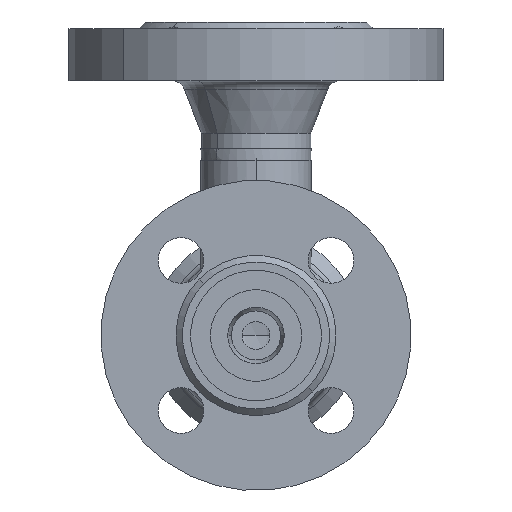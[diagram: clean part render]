
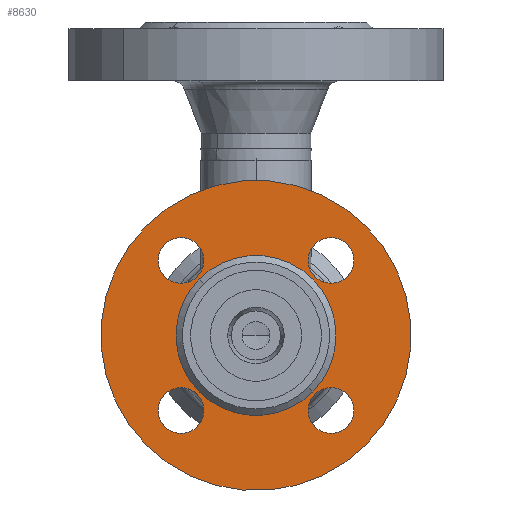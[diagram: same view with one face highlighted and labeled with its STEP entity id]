
A CAD part, front view. The second image highlights one B-rep face of the part: STEP entity #8630.
In plain terms, the highlighted planar face has unit normal (0, -1, 0).
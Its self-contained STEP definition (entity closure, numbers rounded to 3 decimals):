
#102 = VERTEX_POINT ( 'NONE', #568 ) ;
#141 = VERTEX_POINT ( 'NONE', #718 ) ;
#149 = ORIENTED_EDGE ( 'NONE', *, *, #6376, .T. ) ;
#166 = EDGE_CURVE ( 'NONE', #141, #102, #838, .T. ) ;
#222 = ORIENTED_EDGE ( 'NONE', *, *, #5310, .T. ) ;
#301 = EDGE_LOOP ( 'NONE', ( #222, #149 ) ) ;
#568 = CARTESIAN_POINT ( 'NONE',  ( -7., 2., 32.5 ) ) ;
#684 = EDGE_CURVE ( 'NONE', #7557, #7783, #2327, .T. ) ;
#718 = CARTESIAN_POINT ( 'NONE',  ( 7., 2., 32.5 ) ) ;
#838 = CIRCLE ( 'NONE', #839, 7. ) ;
#839 = AXIS2_PLACEMENT_3D ( 'NONE', #840, #841, #842 ) ;
#840 = CARTESIAN_POINT ( 'NONE',  ( 0., 2., 32.5 ) ) ;
#841 = DIRECTION ( 'NONE',  ( 0., 1., 0. ) ) ;
#842 = DIRECTION ( 'NONE',  ( -1., 0., 0. ) ) ;
#965 = CARTESIAN_POINT ( 'NONE',  ( -7., 2., -32.5 ) ) ;
#1178 = CARTESIAN_POINT ( 'NONE',  ( 7., 2., -32.5 ) ) ;
#1297 = CIRCLE ( 'NONE', #1298, 7. ) ;
#1298 = AXIS2_PLACEMENT_3D ( 'NONE', #1299, #1300, #1301 ) ;
#1299 = CARTESIAN_POINT ( 'NONE',  ( 0., 2., -32.5 ) ) ;
#1300 = DIRECTION ( 'NONE',  ( 0., 1., 0. ) ) ;
#1301 = DIRECTION ( 'NONE',  ( -1., 0., 0. ) ) ;
#2327 = CIRCLE ( 'NONE', #2328, 47.5 ) ;
#2328 = AXIS2_PLACEMENT_3D ( 'NONE', #2329, #2330, #2331 ) ;
#2329 = CARTESIAN_POINT ( 'NONE',  ( 0., 2., 0. ) ) ;
#2330 = DIRECTION ( 'NONE',  ( 0., 1., 0. ) ) ;
#2331 = DIRECTION ( 'NONE',  ( -1., 0., 0. ) ) ;
#3120 = VERTEX_POINT ( 'NONE', #6697 ) ;
#3347 = VERTEX_POINT ( 'NONE', #6997 ) ;
#3567 = EDGE_CURVE ( 'NONE', #3347, #3120, #7245, .T. ) ;
#4383 = CIRCLE ( 'NONE', #4384, 7. ) ;
#4384 = AXIS2_PLACEMENT_3D ( 'NONE', #4385, #4386, #4387 ) ;
#4385 = CARTESIAN_POINT ( 'NONE',  ( 32.5, 2., 0. ) ) ;
#4386 = DIRECTION ( 'NONE',  ( 0., 1., 0. ) ) ;
#4387 = DIRECTION ( 'NONE',  ( -1., 0., 0. ) ) ;
#5088 = VERTEX_POINT ( 'NONE', #8689 ) ;
#5310 = EDGE_CURVE ( 'NONE', #5088, #14038, #8784, .T. ) ;
#5452 = ORIENTED_EDGE ( 'NONE', *, *, #13757, .T. ) ;
#5813 = EDGE_CURVE ( 'NONE', #13446, #13673, #9169, .T. ) ;
#6189 = ORIENTED_EDGE ( 'NONE', *, *, #5813, .T. ) ;
#6376 = EDGE_CURVE ( 'NONE', #14038, #5088, #11152, .T. ) ;
#6697 = CARTESIAN_POINT ( 'NONE',  ( 25.5, 2., 0. ) ) ;
#6715 = EDGE_LOOP ( 'NONE', ( #6189, #5452 ) ) ;
#6956 = ORIENTED_EDGE ( 'NONE', *, *, #9470, .T. ) ;
#6997 = CARTESIAN_POINT ( 'NONE',  ( 39.5, 2., 0. ) ) ;
#7245 = CIRCLE ( 'NONE', #7246, 7. ) ;
#7246 = AXIS2_PLACEMENT_3D ( 'NONE', #7247, #7248, #7249 ) ;
#7247 = CARTESIAN_POINT ( 'NONE',  ( 32.5, 2., 0. ) ) ;
#7248 = DIRECTION ( 'NONE',  ( 0., 1., 0. ) ) ;
#7249 = DIRECTION ( 'NONE',  ( -1., 0., 0. ) ) ;
#7436 = CARTESIAN_POINT ( 'NONE',  ( -39.5, 2., 0. ) ) ;
#7482 = EDGE_CURVE ( 'NONE', #9021, #9244, #12414, .T. ) ;
#7539 = CIRCLE ( 'NONE', #7540, 7. ) ;
#7540 = AXIS2_PLACEMENT_3D ( 'NONE', #7541, #7542, #7543 ) ;
#7541 = CARTESIAN_POINT ( 'NONE',  ( 0., 2., 32.5 ) ) ;
#7542 = DIRECTION ( 'NONE',  ( 0., 1., 0. ) ) ;
#7543 = DIRECTION ( 'NONE',  ( -1., 0., 0. ) ) ;
#7557 = VERTEX_POINT ( 'NONE', #12491 ) ;
#7637 = CARTESIAN_POINT ( 'NONE',  ( -25.5, 2., 0. ) ) ;
#7783 = VERTEX_POINT ( 'NONE', #12663 ) ;
#7799 = CIRCLE ( 'NONE', #7803, 7. ) ;
#7803 = AXIS2_PLACEMENT_3D ( 'NONE', #7804, #7805, #7806 ) ;
#7804 = CARTESIAN_POINT ( 'NONE',  ( -32.5, 2., 0. ) ) ;
#7805 = DIRECTION ( 'NONE',  ( 0., 1., 0. ) ) ;
#7806 = DIRECTION ( 'NONE',  ( -1., 0., 0. ) ) ;
#7858 = ORIENTED_EDGE ( 'NONE', *, *, #7482, .T. ) ;
#8008 = EDGE_CURVE ( 'NONE', #7783, #7557, #12709, .T. ) ;
#8376 = EDGE_LOOP ( 'NONE', ( #7858, #6956 ) ) ;
#8630 = ADVANCED_FACE ( 'NONE', ( #13251, #13252, #13253, #13256, #13257, #13258 ), #13259, .F. ) ;
#8689 = CARTESIAN_POINT ( 'NONE',  ( -24.5, 2., 0. ) ) ;
#8784 = CIRCLE ( 'NONE', #8785, 24.5 ) ;
#8785 = AXIS2_PLACEMENT_3D ( 'NONE', #8786, #8787, #8788 ) ;
#8786 = CARTESIAN_POINT ( 'NONE',  ( 0., 2., 0. ) ) ;
#8787 = DIRECTION ( 'NONE',  ( 0., 1., 0. ) ) ;
#8788 = DIRECTION ( 'NONE',  ( -1., 0., 0. ) ) ;
#9021 = VERTEX_POINT ( 'NONE', #965 ) ;
#9169 = CIRCLE ( 'NONE', #9171, 7. ) ;
#9171 = AXIS2_PLACEMENT_3D ( 'NONE', #9172, #9173, #9174 ) ;
#9172 = CARTESIAN_POINT ( 'NONE',  ( -32.5, 2., 0. ) ) ;
#9173 = DIRECTION ( 'NONE',  ( 0., 1., 0. ) ) ;
#9174 = DIRECTION ( 'NONE',  ( -1., 0., 0. ) ) ;
#9244 = VERTEX_POINT ( 'NONE', #1178 ) ;
#9470 = EDGE_CURVE ( 'NONE', #9244, #9021, #1297, .T. ) ;
#10233 = ORIENTED_EDGE ( 'NONE', *, *, #684, .F. ) ;
#10584 = ORIENTED_EDGE ( 'NONE', *, *, #8008, .F. ) ;
#11023 = CARTESIAN_POINT ( 'NONE',  ( 24.5, 2., 0. ) ) ;
#11109 = EDGE_LOOP ( 'NONE', ( #10584, #10233 ) ) ;
#11152 = CIRCLE ( 'NONE', #11153, 24.5 ) ;
#11153 = AXIS2_PLACEMENT_3D ( 'NONE', #11154, #11155, #11156 ) ;
#11154 = CARTESIAN_POINT ( 'NONE',  ( 0., 2., 0. ) ) ;
#11155 = DIRECTION ( 'NONE',  ( 0., 1., 0. ) ) ;
#11156 = DIRECTION ( 'NONE',  ( -1., 0., 0. ) ) ;
#11359 = ORIENTED_EDGE ( 'NONE', *, *, #3567, .T. ) ;
#11879 = EDGE_CURVE ( 'NONE', #3120, #3347, #4383, .T. ) ;
#12255 = ORIENTED_EDGE ( 'NONE', *, *, #11879, .T. ) ;
#12414 = CIRCLE ( 'NONE', #12415, 7. ) ;
#12415 = AXIS2_PLACEMENT_3D ( 'NONE', #12416, #12417, #12418 ) ;
#12416 = CARTESIAN_POINT ( 'NONE',  ( 0., 2., -32.5 ) ) ;
#12417 = DIRECTION ( 'NONE',  ( 0., 1., 0. ) ) ;
#12418 = DIRECTION ( 'NONE',  ( -1., 0., 0. ) ) ;
#12491 = CARTESIAN_POINT ( 'NONE',  ( 47.5, 2., 0. ) ) ;
#12663 = CARTESIAN_POINT ( 'NONE',  ( -47.5, 2., 0. ) ) ;
#12709 = CIRCLE ( 'NONE', #12710, 47.5 ) ;
#12710 = AXIS2_PLACEMENT_3D ( 'NONE', #12711, #12712, #12713 ) ;
#12711 = CARTESIAN_POINT ( 'NONE',  ( 0., 2., 0. ) ) ;
#12712 = DIRECTION ( 'NONE',  ( 0., 1., 0. ) ) ;
#12713 = DIRECTION ( 'NONE',  ( -1., 0., 0. ) ) ;
#12783 = EDGE_LOOP ( 'NONE', ( #12255, #11359 ) ) ;
#13031 = ORIENTED_EDGE ( 'NONE', *, *, #166, .T. ) ;
#13251 = FACE_BOUND ( 'NONE', #8376, .T. ) ;
#13252 = FACE_BOUND ( 'NONE', #6715, .T. ) ;
#13253 = FACE_BOUND ( 'NONE', #13864, .T. ) ;
#13256 = FACE_BOUND ( 'NONE', #12783, .T. ) ;
#13257 = FACE_OUTER_BOUND ( 'NONE', #11109, .T. ) ;
#13258 = FACE_BOUND ( 'NONE', #301, .T. ) ;
#13259 = PLANE ( 'NONE',  #13260 ) ;
#13260 = AXIS2_PLACEMENT_3D ( 'NONE', #13261, #13262, #13263 ) ;
#13261 = CARTESIAN_POINT ( 'NONE',  ( 24.5, 2., 0. ) ) ;
#13262 = DIRECTION ( 'NONE',  ( 0., 1., 0. ) ) ;
#13263 = DIRECTION ( 'NONE',  ( -1., 0., 0. ) ) ;
#13446 = VERTEX_POINT ( 'NONE', #7436 ) ;
#13558 = EDGE_CURVE ( 'NONE', #102, #141, #7539, .T. ) ;
#13673 = VERTEX_POINT ( 'NONE', #7637 ) ;
#13757 = EDGE_CURVE ( 'NONE', #13673, #13446, #7799, .T. ) ;
#13761 = ORIENTED_EDGE ( 'NONE', *, *, #13558, .T. ) ;
#13864 = EDGE_LOOP ( 'NONE', ( #13761, #13031 ) ) ;
#14038 = VERTEX_POINT ( 'NONE', #11023 ) ;
